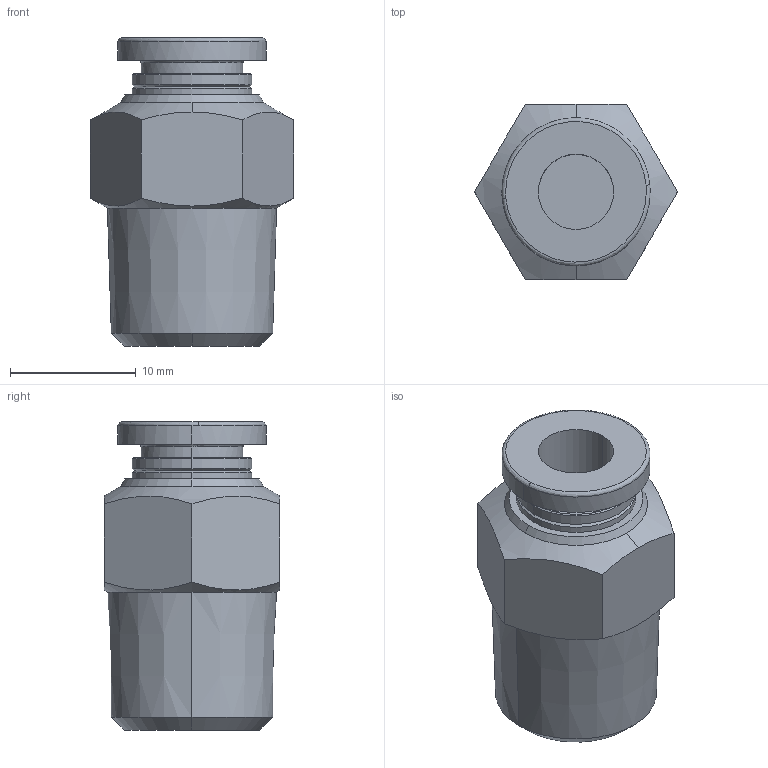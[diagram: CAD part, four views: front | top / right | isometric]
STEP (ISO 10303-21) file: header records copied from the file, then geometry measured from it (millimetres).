
FILE_DESCRIPTION (( 'STEP AP214' ), '1' );
FILE_NAME ('KQ2H06-02AS.STEP', '2023-03-06T10:19:37', ( 'Windows User' ), ( 'P R C' ), 'SwSTEP 2.0', 'SolidWorks 2019', '' );
FILE_SCHEMA (( 'AUTOMOTIVE_DESIGN' ));
Length unit declared in the file: millimetre
Products named in the file (1): KQ2H06-02AS
Bounding box: 16.17 x 14 x 24.55 mm (x, y, z)
Volume: 2802 mm3; surface area: 1700.6 mm2
Topology: 1 solids, 1 shells, 46 faces, 113 edges, 73 vertices
Faces by surface type: cone 20, plane 12, cylinder 10, bspline 4
Entity records: 1688 total; most frequent: CARTESIAN_POINT 581, DIRECTION 228, ORIENTED_EDGE 226, EDGE_CURVE 113, AXIS2_PLACEMENT_3D 96, VERTEX_POINT 73, CIRCLE 53, EDGE_LOOP 50
